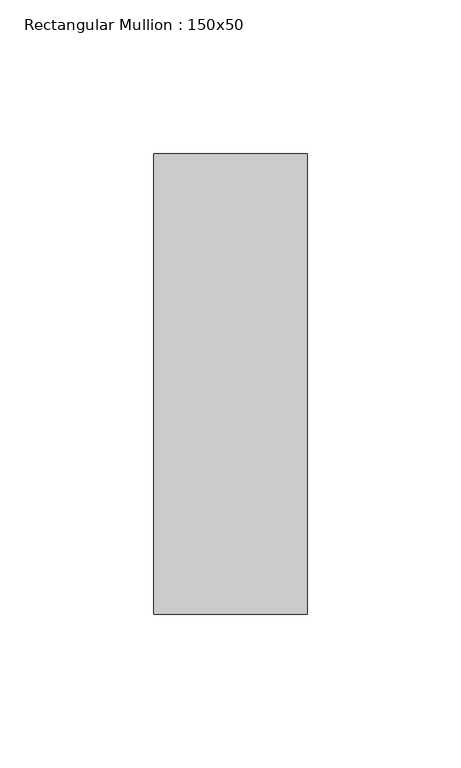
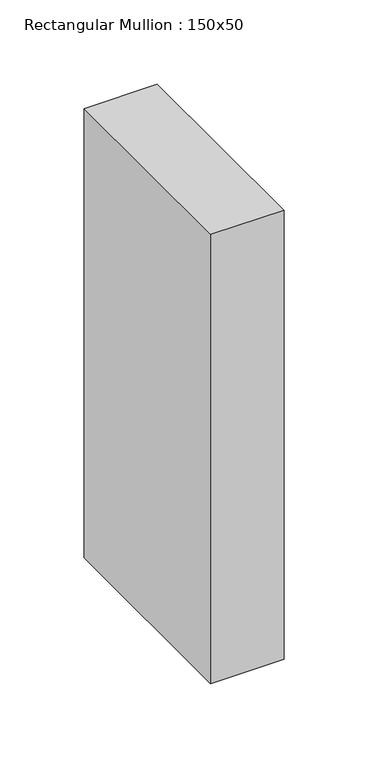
"""IFC4 building model written with IfcOpenShell, lengths in millimetres: member geometry, Rectangular Mullion : 150x50."""

from ifc_helpers import new_model, si_unit, frame, origin, place, context, project, spatial, polyline, outline, extrude, source, transform, mapped, element, save


def rectangular_mullion_150x50_ce002cee(model_context):
    return source(origin(), model_context, "Body", "SweptSolid", [
        extrude(outline(polyline([(25.0, 75.0), (25.0, -75.0), (-25.0, -75.0), (-25.0, 75.0), (25.0, 75.0)])), frame((0.0, 0.0, -325.0), z_axis=(0.0, 0.0, 1.0), x_axis=(1.0, 0.0, 0.0)), (0.0, 0.0, 1.0), 325.0),
    ])


if __name__ == "__main__":
    model = new_model("IFC4")
    model_context = context("Model", 3, world=origin())
    ifc_project = project(units=[si_unit("LENGTHUNIT", "METRE", prefix="MILLI")], contexts=[model_context])
    site = spatial("IfcSite", under=ifc_project)
    building = spatial("IfcBuilding", under=site)
    placement = place(None, origin())
    rectangular_mullion_150x50_shape = rectangular_mullion_150x50_ce002cee(model_context)
    element("IfcMember", 1, ObjectType="Rectangular Mullion : 150x50", at=placement, inside=building, context=model_context, shape_type="MappedRepresentation", body=[
        mapped(rectangular_mullion_150x50_shape, transform((0.0, 0.0, 0.0), x_axis=(1.0, 0.0, 0.0), y_axis=(0.0, 1.0, 0.0), z_axis=(0.0, 0.0, 1.0))),
    ])
    save(model, "model.ifc")
